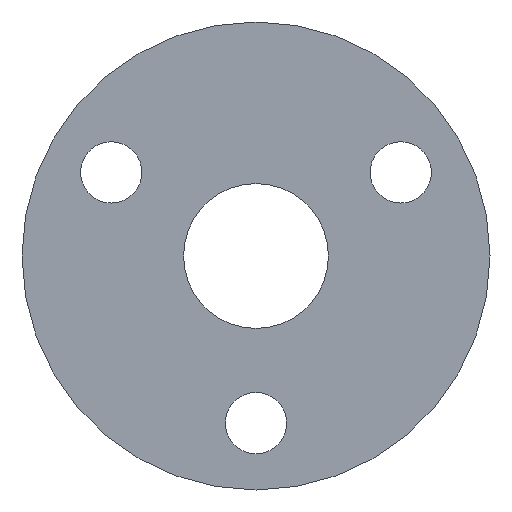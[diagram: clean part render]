
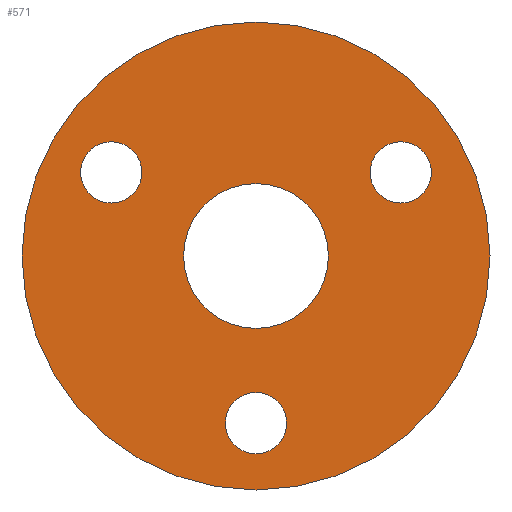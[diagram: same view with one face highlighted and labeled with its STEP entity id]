
A CAD part, front view. The second image highlights one B-rep face of the part: STEP entity #571.
In plain terms, the highlighted planar face has unit normal (0, -1, 0).
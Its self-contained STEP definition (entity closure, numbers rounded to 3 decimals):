
#1 = EDGE_CURVE ( 'NONE', #159, #624, #395, .T. ) ;
#11 = EDGE_CURVE ( 'NONE', #506, #254, #51, .T. ) ;
#19 = VERTEX_POINT ( 'NONE', #556 ) ;
#37 = DIRECTION ( 'NONE',  ( 0., 1., 0. ) ) ;
#41 = DIRECTION ( 'NONE',  ( 0., 0., 1. ) ) ;
#43 = DIRECTION ( 'NONE',  ( 0., 1., 0. ) ) ;
#44 = EDGE_CURVE ( 'NONE', #55, #87, #84, .T. ) ;
#51 = CIRCLE ( 'NONE', #96, 2.75 ) ;
#55 = VERTEX_POINT ( 'NONE', #296 ) ;
#62 = AXIS2_PLACEMENT_3D ( 'NONE', #275, #541, #213 ) ;
#84 = CIRCLE ( 'NONE', #673, 6.5 ) ;
#87 = VERTEX_POINT ( 'NONE', #682 ) ;
#93 = VERTEX_POINT ( 'NONE', #240 ) ;
#96 = AXIS2_PLACEMENT_3D ( 'NONE', #277, #43, #667 ) ;
#98 = EDGE_CURVE ( 'NONE', #87, #55, #445, .T. ) ;
#103 = CARTESIAN_POINT ( 'NONE',  ( 0., -3., -15. ) ) ;
#110 = EDGE_CURVE ( 'NONE', #628, #369, #284, .T. ) ;
#118 = AXIS2_PLACEMENT_3D ( 'NONE', #103, #551, #565 ) ;
#122 = ORIENTED_EDGE ( 'NONE', *, *, #98, .T. ) ;
#131 = ORIENTED_EDGE ( 'NONE', *, *, #314, .F. ) ;
#136 = ORIENTED_EDGE ( 'NONE', *, *, #110, .F. ) ;
#145 = FACE_BOUND ( 'NONE', #341, .T. ) ;
#149 = CARTESIAN_POINT ( 'NONE',  ( -12.99, -3., 7.5 ) ) ;
#150 = EDGE_CURVE ( 'NONE', #254, #506, #412, .T. ) ;
#157 = CARTESIAN_POINT ( 'NONE',  ( -12.99, -3., 4.75 ) ) ;
#159 = VERTEX_POINT ( 'NONE', #260 ) ;
#166 = DIRECTION ( 'NONE',  ( 0., 1., 0. ) ) ;
#169 = DIRECTION ( 'NONE',  ( 0., 0., 1. ) ) ;
#170 = ORIENTED_EDGE ( 'NONE', *, *, #376, .T. ) ;
#208 = FACE_OUTER_BOUND ( 'NONE', #597, .T. ) ;
#213 = DIRECTION ( 'NONE',  ( 0., 0., 1. ) ) ;
#216 = AXIS2_PLACEMENT_3D ( 'NONE', #537, #478, #41 ) ;
#222 = AXIS2_PLACEMENT_3D ( 'NONE', #622, #614, #504 ) ;
#227 = EDGE_LOOP ( 'NONE', ( #122, #365 ) ) ;
#234 = CARTESIAN_POINT ( 'NONE',  ( 0., -3., 0. ) ) ;
#236 = CARTESIAN_POINT ( 'NONE',  ( -12.99, -3., 10.25 ) ) ;
#240 = CARTESIAN_POINT ( 'NONE',  ( 12.99, -3., 4.75 ) ) ;
#242 = DIRECTION ( 'NONE',  ( 0., 1., 0. ) ) ;
#246 = AXIS2_PLACEMENT_3D ( 'NONE', #283, #500, #169 ) ;
#251 = PLANE ( 'NONE',  #216 ) ;
#254 = VERTEX_POINT ( 'NONE', #157 ) ;
#258 = EDGE_CURVE ( 'NONE', #624, #159, #433, .T. ) ;
#260 = CARTESIAN_POINT ( 'NONE',  ( 0., -3., -17.75 ) ) ;
#269 = DIRECTION ( 'NONE',  ( 0., 0., 1. ) ) ;
#275 = CARTESIAN_POINT ( 'NONE',  ( 0., -3., -15. ) ) ;
#277 = CARTESIAN_POINT ( 'NONE',  ( -12.99, -3., 7.5 ) ) ;
#283 = CARTESIAN_POINT ( 'NONE',  ( 0., -3., 0. ) ) ;
#284 = CIRCLE ( 'NONE', #246, 21. ) ;
#292 = DIRECTION ( 'NONE',  ( 0., 0., 1. ) ) ;
#296 = CARTESIAN_POINT ( 'NONE',  ( 0., -3., -6.5 ) ) ;
#314 = EDGE_CURVE ( 'NONE', #369, #628, #355, .T. ) ;
#315 = FACE_BOUND ( 'NONE', #455, .T. ) ;
#332 = AXIS2_PLACEMENT_3D ( 'NONE', #404, #242, #292 ) ;
#341 = EDGE_LOOP ( 'NONE', ( #375, #496 ) ) ;
#349 = DIRECTION ( 'NONE',  ( 0., 1., 0. ) ) ;
#350 = ORIENTED_EDGE ( 'NONE', *, *, #553, .T. ) ;
#355 = CIRCLE ( 'NONE', #222, 21. ) ;
#365 = ORIENTED_EDGE ( 'NONE', *, *, #44, .T. ) ;
#369 = VERTEX_POINT ( 'NONE', #415 ) ;
#370 = FACE_BOUND ( 'NONE', #477, .T. ) ;
#375 = ORIENTED_EDGE ( 'NONE', *, *, #11, .T. ) ;
#376 = EDGE_CURVE ( 'NONE', #19, #93, #625, .T. ) ;
#390 = DIRECTION ( 'NONE',  ( 0., 0., 1. ) ) ;
#395 = CIRCLE ( 'NONE', #62, 2.75 ) ;
#400 = DIRECTION ( 'NONE',  ( 0., 0., 1. ) ) ;
#404 = CARTESIAN_POINT ( 'NONE',  ( 12.99, -3., 7.5 ) ) ;
#412 = CIRCLE ( 'NONE', #501, 2.75 ) ;
#415 = CARTESIAN_POINT ( 'NONE',  ( 0., -3., 21. ) ) ;
#426 = AXIS2_PLACEMENT_3D ( 'NONE', #533, #37, #269 ) ;
#432 = DIRECTION ( 'NONE',  ( 0., 0., 1. ) ) ;
#433 = CIRCLE ( 'NONE', #118, 2.75 ) ;
#445 = CIRCLE ( 'NONE', #539, 6.5 ) ;
#449 = CIRCLE ( 'NONE', #426, 2.75 ) ;
#455 = EDGE_LOOP ( 'NONE', ( #610, #494 ) ) ;
#477 = EDGE_LOOP ( 'NONE', ( #170, #350 ) ) ;
#478 = DIRECTION ( 'NONE',  ( 0., 1., 0. ) ) ;
#486 = DIRECTION ( 'NONE',  ( 0., 1., 0. ) ) ;
#494 = ORIENTED_EDGE ( 'NONE', *, *, #1, .T. ) ;
#496 = ORIENTED_EDGE ( 'NONE', *, *, #150, .T. ) ;
#500 = DIRECTION ( 'NONE',  ( 0., 1., 0. ) ) ;
#501 = AXIS2_PLACEMENT_3D ( 'NONE', #149, #486, #432 ) ;
#503 = CARTESIAN_POINT ( 'NONE',  ( 0., -3., -12.25 ) ) ;
#504 = DIRECTION ( 'NONE',  ( 0., 0., 1. ) ) ;
#506 = VERTEX_POINT ( 'NONE', #236 ) ;
#533 = CARTESIAN_POINT ( 'NONE',  ( 12.99, -3., 7.5 ) ) ;
#537 = CARTESIAN_POINT ( 'NONE',  ( 0., -3., 0. ) ) ;
#539 = AXIS2_PLACEMENT_3D ( 'NONE', #675, #166, #390 ) ;
#541 = DIRECTION ( 'NONE',  ( 0., 1., 0. ) ) ;
#551 = DIRECTION ( 'NONE',  ( 0., 1., 0. ) ) ;
#553 = EDGE_CURVE ( 'NONE', #93, #19, #449, .T. ) ;
#556 = CARTESIAN_POINT ( 'NONE',  ( 12.99, -3., 10.25 ) ) ;
#565 = DIRECTION ( 'NONE',  ( 0., 0., 1. ) ) ;
#571 = ADVANCED_FACE ( 'NONE', ( #607, #145, #370, #315, #208 ), #251, .F. ) ;
#597 = EDGE_LOOP ( 'NONE', ( #136, #131 ) ) ;
#607 = FACE_BOUND ( 'NONE', #227, .T. ) ;
#610 = ORIENTED_EDGE ( 'NONE', *, *, #258, .T. ) ;
#614 = DIRECTION ( 'NONE',  ( 0., 1., 0. ) ) ;
#622 = CARTESIAN_POINT ( 'NONE',  ( 0., -3., 0. ) ) ;
#624 = VERTEX_POINT ( 'NONE', #503 ) ;
#625 = CIRCLE ( 'NONE', #332, 2.75 ) ;
#628 = VERTEX_POINT ( 'NONE', #680 ) ;
#667 = DIRECTION ( 'NONE',  ( 0., 0., 1. ) ) ;
#673 = AXIS2_PLACEMENT_3D ( 'NONE', #234, #349, #400 ) ;
#675 = CARTESIAN_POINT ( 'NONE',  ( 0., -3., 0. ) ) ;
#680 = CARTESIAN_POINT ( 'NONE',  ( 0., -3., -21. ) ) ;
#682 = CARTESIAN_POINT ( 'NONE',  ( 0., -3., 6.5 ) ) ;
